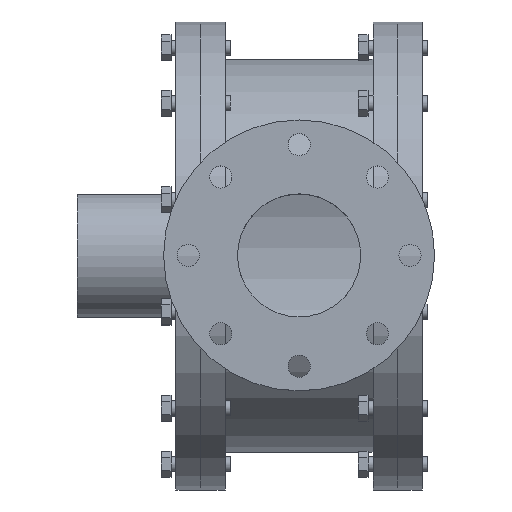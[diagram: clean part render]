
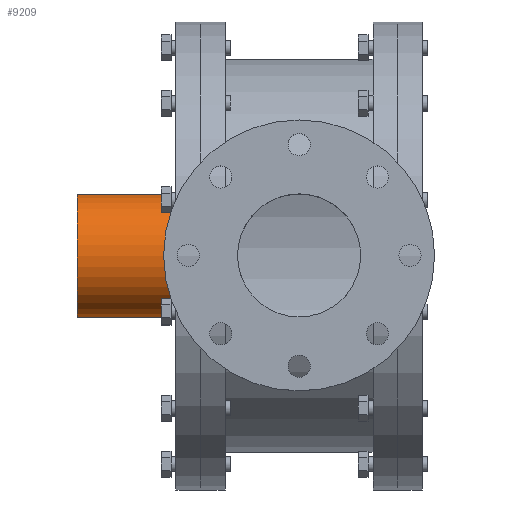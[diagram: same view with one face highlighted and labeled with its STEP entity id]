
A CAD part, top view. The second image highlights one B-rep face of the part: STEP entity #9209.
In plain terms, the highlighted cylindrical face has radius 50 mm (diameter 100 mm), a full revolution.
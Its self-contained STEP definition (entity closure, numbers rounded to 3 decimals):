
#9209 = ADVANCED_FACE('',(#9210),#9224,.T.);
#9210 = FACE_BOUND('',#9211,.F.);
#9211 = EDGE_LOOP('',(#9212,#9242,#9269,#9270));
#9212 = ORIENTED_EDGE('',*,*,#9213,.T.);
#9213 = EDGE_CURVE('',#9214,#9216,#9218,.T.);
#9214 = VERTEX_POINT('',#9215);
#9215 = CARTESIAN_POINT('',(-180.,50.,0.));
#9216 = VERTEX_POINT('',#9217);
#9217 = CARTESIAN_POINT('',(-100.,50.,0.));
#9218 = SEAM_CURVE('',#9219,(#9223,#9235),.PCURVE_S1.);
#9219 = LINE('',#9220,#9221);
#9220 = CARTESIAN_POINT('',(-180.,50.,0.));
#9221 = VECTOR('',#9222,1.);
#9222 = DIRECTION('',(1.,0.,0.));
#9223 = PCURVE('',#9224,#9229);
#9224 = CYLINDRICAL_SURFACE('',#9225,50.);
#9225 = AXIS2_PLACEMENT_3D('',#9226,#9227,#9228);
#9226 = CARTESIAN_POINT('',(-180.,0.,0.));
#9227 = DIRECTION('',(-1.,-0.,-0.));
#9228 = DIRECTION('',(0.,1.,0.));
#9229 = DEFINITIONAL_REPRESENTATION('',(#9230),#9234);
#9230 = LINE('',#9231,#9232);
#9231 = CARTESIAN_POINT('',(-0.,0.));
#9232 = VECTOR('',#9233,1.);
#9233 = DIRECTION('',(-0.,-1.));
#9234 = ( GEOMETRIC_REPRESENTATION_CONTEXT(2) 
PARAMETRIC_REPRESENTATION_CONTEXT() REPRESENTATION_CONTEXT('2D SPACE',''
  ) );
#9235 = PCURVE('',#9224,#9236);
#9236 = DEFINITIONAL_REPRESENTATION('',(#9237),#9241);
#9237 = LINE('',#9238,#9239);
#9238 = CARTESIAN_POINT('',(-6.283,0.));
#9239 = VECTOR('',#9240,1.);
#9240 = DIRECTION('',(-0.,-1.));
#9241 = ( GEOMETRIC_REPRESENTATION_CONTEXT(2) 
PARAMETRIC_REPRESENTATION_CONTEXT() REPRESENTATION_CONTEXT('2D SPACE',''
  ) );
#9242 = ORIENTED_EDGE('',*,*,#9243,.T.);
#9243 = EDGE_CURVE('',#9216,#9216,#9244,.T.);
#9244 = SURFACE_CURVE('',#9245,(#9250,#9257),.PCURVE_S1.);
#9245 = CIRCLE('',#9246,50.);
#9246 = AXIS2_PLACEMENT_3D('',#9247,#9248,#9249);
#9247 = CARTESIAN_POINT('',(-100.,0.,0.));
#9248 = DIRECTION('',(1.,0.,0.));
#9249 = DIRECTION('',(0.,1.,0.));
#9250 = PCURVE('',#9224,#9251);
#9251 = DEFINITIONAL_REPRESENTATION('',(#9252),#9256);
#9252 = LINE('',#9253,#9254);
#9253 = CARTESIAN_POINT('',(-0.,-80.));
#9254 = VECTOR('',#9255,1.);
#9255 = DIRECTION('',(-1.,0.));
#9256 = ( GEOMETRIC_REPRESENTATION_CONTEXT(2) 
PARAMETRIC_REPRESENTATION_CONTEXT() REPRESENTATION_CONTEXT('2D SPACE',''
  ) );
#9257 = PCURVE('',#9258,#9263);
#9258 = PLANE('',#9259);
#9259 = AXIS2_PLACEMENT_3D('',#9260,#9261,#9262);
#9260 = CARTESIAN_POINT('',(-100.,0.,0.)
  );
#9261 = DIRECTION('',(1.,0.,0.));
#9262 = DIRECTION('',(-0.,0.,1.));
#9263 = DEFINITIONAL_REPRESENTATION('',(#9264),#9268);
#9264 = CIRCLE('',#9265,50.);
#9265 = AXIS2_PLACEMENT_2D('',#9266,#9267);
#9266 = CARTESIAN_POINT('',(0.,0.));
#9267 = DIRECTION('',(0.,-1.));
#9268 = ( GEOMETRIC_REPRESENTATION_CONTEXT(2) 
PARAMETRIC_REPRESENTATION_CONTEXT() REPRESENTATION_CONTEXT('2D SPACE',''
  ) );
#9269 = ORIENTED_EDGE('',*,*,#9213,.F.);
#9270 = ORIENTED_EDGE('',*,*,#9271,.F.);
#9271 = EDGE_CURVE('',#9214,#9214,#9272,.T.);
#9272 = SURFACE_CURVE('',#9273,(#9278,#9285),.PCURVE_S1.);
#9273 = CIRCLE('',#9274,50.);
#9274 = AXIS2_PLACEMENT_3D('',#9275,#9276,#9277);
#9275 = CARTESIAN_POINT('',(-180.,0.,0.));
#9276 = DIRECTION('',(1.,0.,0.));
#9277 = DIRECTION('',(0.,1.,0.));
#9278 = PCURVE('',#9224,#9279);
#9279 = DEFINITIONAL_REPRESENTATION('',(#9280),#9284);
#9280 = LINE('',#9281,#9282);
#9281 = CARTESIAN_POINT('',(-0.,0.));
#9282 = VECTOR('',#9283,1.);
#9283 = DIRECTION('',(-1.,0.));
#9284 = ( GEOMETRIC_REPRESENTATION_CONTEXT(2) 
PARAMETRIC_REPRESENTATION_CONTEXT() REPRESENTATION_CONTEXT('2D SPACE',''
  ) );
#9285 = PCURVE('',#9286,#9291);
#9286 = PLANE('',#9287);
#9287 = AXIS2_PLACEMENT_3D('',#9288,#9289,#9290);
#9288 = CARTESIAN_POINT('',(-180.,0.,0.)
  );
#9289 = DIRECTION('',(1.,0.,0.));
#9290 = DIRECTION('',(-0.,0.,1.));
#9291 = DEFINITIONAL_REPRESENTATION('',(#9292),#9296);
#9292 = CIRCLE('',#9293,50.);
#9293 = AXIS2_PLACEMENT_2D('',#9294,#9295);
#9294 = CARTESIAN_POINT('',(0.,0.));
#9295 = DIRECTION('',(0.,-1.));
#9296 = ( GEOMETRIC_REPRESENTATION_CONTEXT(2) 
PARAMETRIC_REPRESENTATION_CONTEXT() REPRESENTATION_CONTEXT('2D SPACE',''
  ) );
